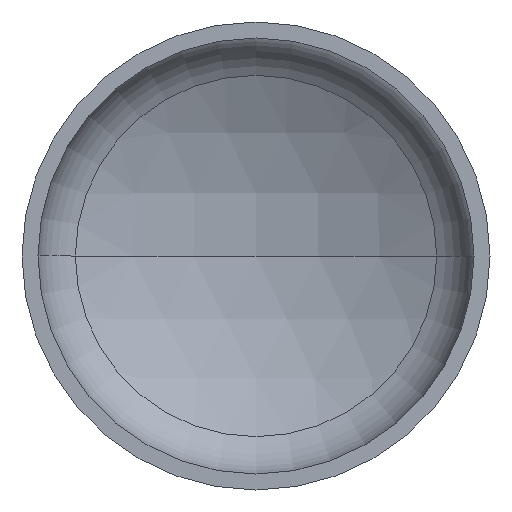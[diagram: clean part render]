
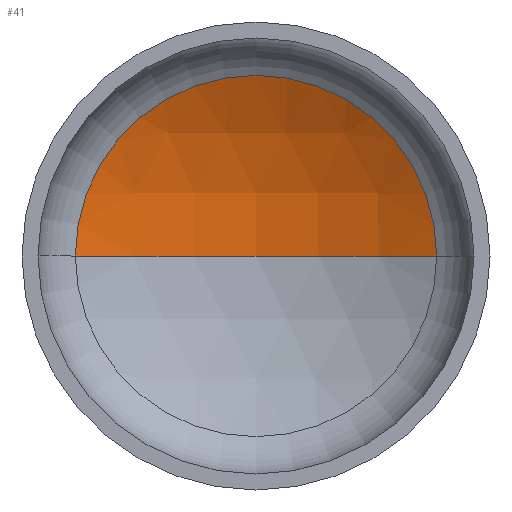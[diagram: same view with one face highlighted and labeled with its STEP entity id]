
A CAD part, front view. The second image highlights one B-rep face of the part: STEP entity #41.
In plain terms, the highlighted spherical face has radius 2720 mm.
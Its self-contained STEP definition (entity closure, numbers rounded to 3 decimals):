
#4 = VERTEX_POINT ( 'NONE', #185 ) ;
#31 = AXIS2_PLACEMENT_3D ( 'NONE', #338, #169, #370 ) ;
#34 = AXIS2_PLACEMENT_3D ( 'NONE', #66, #280, #106 ) ;
#37 = FACE_OUTER_BOUND ( 'NONE', #100, .T. ) ;
#41 = ADVANCED_FACE ( 'NONE', ( #37 ), #140, .F. ) ;
#45 = CIRCLE ( 'NONE', #272, 2720. ) ;
#66 = CARTESIAN_POINT ( 'NONE',  ( 0., 534.857, 0. ) ) ;
#69 = AXIS2_PLACEMENT_3D ( 'NONE', #192, #181, #247 ) ;
#99 = EDGE_CURVE ( 'NONE', #4, #160, #254, .T. ) ;
#100 = EDGE_LOOP ( 'NONE', ( #411, #388, #331 ) ) ;
#101 = EDGE_CURVE ( 'NONE', #111, #4, #182, .T. ) ;
#106 = DIRECTION ( 'NONE',  ( 1., 0., 0. ) ) ;
#111 = VERTEX_POINT ( 'NONE', #335 ) ;
#140 = SPHERICAL_SURFACE ( 'NONE', #69, 2720. ) ;
#142 = CARTESIAN_POINT ( 'NONE',  ( -1312.292, 534.857, 0. ) ) ;
#160 = VERTEX_POINT ( 'NONE', #142 ) ;
#169 = DIRECTION ( 'NONE',  ( 0., 0., -1. ) ) ;
#181 = DIRECTION ( 'NONE',  ( 0., 0., -1. ) ) ;
#182 = CIRCLE ( 'NONE', #31, 2720. ) ;
#185 = CARTESIAN_POINT ( 'NONE',  ( 1312.292, 534.857, 0. ) ) ;
#192 = CARTESIAN_POINT ( 'NONE',  ( 0., -1847.64, 0. ) ) ;
#210 = DIRECTION ( 'NONE',  ( 0., 0., 1. ) ) ;
#247 = DIRECTION ( 'NONE',  ( -1., 0., 0. ) ) ;
#254 = CIRCLE ( 'NONE', #34, 1312.292 ) ;
#272 = AXIS2_PLACEMENT_3D ( 'NONE', #376, #210, #403 ) ;
#280 = DIRECTION ( 'NONE',  ( 0., -1., 0. ) ) ;
#329 = EDGE_CURVE ( 'NONE', #111, #160, #45, .T. ) ;
#331 = ORIENTED_EDGE ( 'NONE', *, *, #99, .T. ) ;
#335 = CARTESIAN_POINT ( 'NONE',  ( 0., 872.36, 0. ) ) ;
#338 = CARTESIAN_POINT ( 'NONE',  ( 0., -1847.64, 0. ) ) ;
#370 = DIRECTION ( 'NONE',  ( -1., 0., 0. ) ) ;
#376 = CARTESIAN_POINT ( 'NONE',  ( 0., -1847.64, 0. ) ) ;
#388 = ORIENTED_EDGE ( 'NONE', *, *, #101, .T. ) ;
#403 = DIRECTION ( 'NONE',  ( 1., 0., 0. ) ) ;
#411 = ORIENTED_EDGE ( 'NONE', *, *, #329, .F. ) ;
